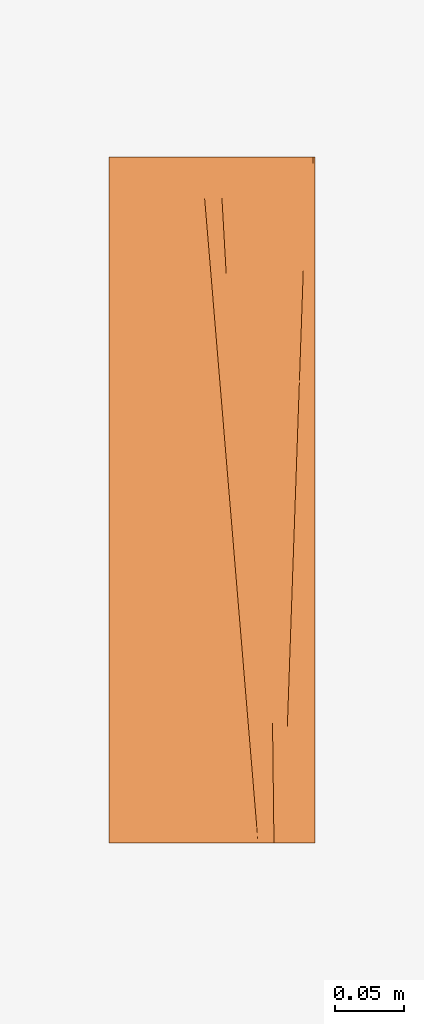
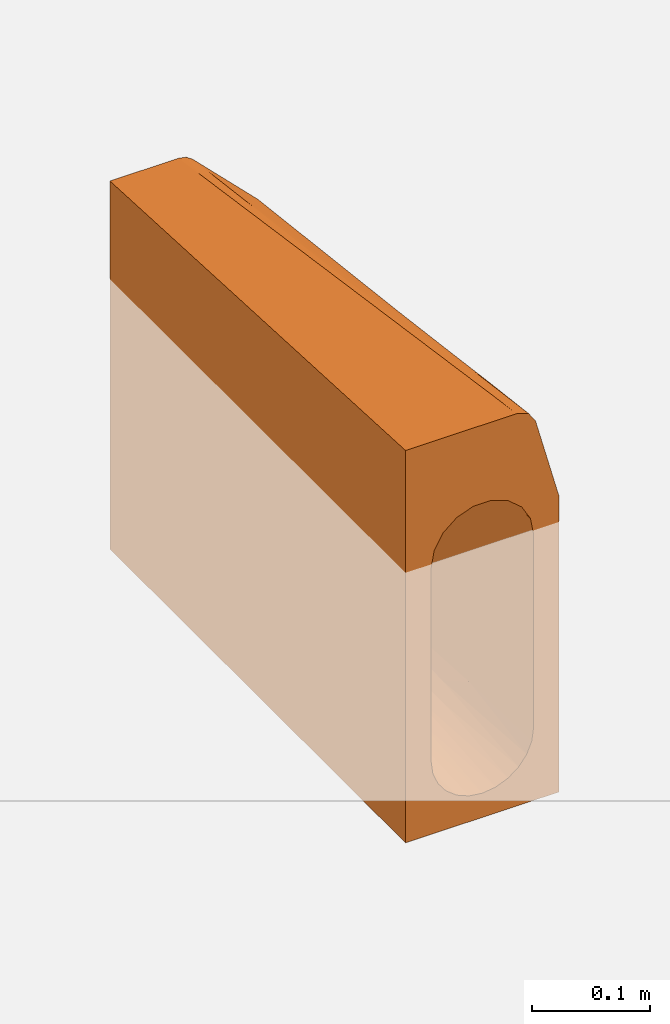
# One storey, part 2 of 2: 1 proxy.
"""IFC2X3 building model written with IfcOpenShell, lengths in millimetres."""

from ifc_helpers import new_model, entity, si_unit, converted_unit, direction, frame, origin, place, context, subcontext, project, spatial, face_set, surface_model, source, transform, mapped, material, element, save


model = new_model("IFC2X3")

# Units and contexts
model_context = context("Model", 3, precision=1e-06, world=origin(), true_north=direction((2.0, 6.12303176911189e-17, 1.0)))
context_of_model = context(None, 3, precision=1e-06, world=origin(), true_north=direction((2.0, 6.12303176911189e-17, 1.0)))
body_context = subcontext(model_context, "Body", "Model", "MODEL_VIEW")
ifc_project = project(units=[si_unit("LENGTHUNIT", "METRE", prefix="MILLI"), si_unit("AREAUNIT", "SQUARE_METRE", prefix="MILLI"), si_unit("VOLUMEUNIT", "CUBIC_METRE", prefix="MILLI"), converted_unit("PLANEANGLEUNIT", "DEGREE", entity("IfcRatioMeasure", 0.0174532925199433), si_unit("PLANEANGLEUNIT", "RADIAN"), dimensions=[0, 0, 0, 0, 0, 0, 0]), si_unit("TIMEUNIT", "SECOND")], contexts=[model_context, context_of_model])

# Site, building, storey
site_placement = place(None, origin())
site = spatial("IfcSite", under=ifc_project, at=site_placement, Name="Default", CompositionType="ELEMENT")
building_placement = place(site_placement, origin())
building = spatial("IfcBuilding", under=site, at=building_placement, CompositionType="ELEMENT")
storey_placement = place(building_placement, origin())
storey = spatial("IfcBuildingStorey", under=building, at=storey_placement, Name="Level 1", CompositionType="ELEMENT", Elevation=0.0)

# Proxy
ifc_material = material(Name="ACO Polymer Concrete.")
shared_shape = source(origin(), body_context, "Body", "SurfaceModel", [
    surface_model("IfcFaceBasedSurfaceModel", [(-75.0, 500.0, 100.0), (-7.87005768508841, 500.0, 100.0), (-0.599072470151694, 500.0, 98.5537111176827), (5.56497115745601, 500.0, 94.4350288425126), (69.4350288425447, 500.0, 30.5649711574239), (73.5537111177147, 500.0, 24.4009275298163), (75.0, 500.0, 17.1299423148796), (75.0, 500.0, -280.0), (-75.0, 500.0, -280.0), (-50.0, 500.0, -30.0), (-50.0, 500.0, -204.99343981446), (-48.2962913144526, 500.0, -217.934392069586), (-43.3012701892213, 500.0, -229.99343981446), (-35.3553390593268, 500.0, -240.348778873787), (-25.0, 500.0, -248.294710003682), (-12.9409522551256, 500.0, -253.289731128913), (0.0, 500.0, -254.99343981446), (12.9409522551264, 500.0, -253.289731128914), (25.0, 500.0, -248.294710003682), (35.3553390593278, 500.0, -240.348778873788), (43.3012701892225, 500.0, -229.993439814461), (48.2962913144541, 500.0, -217.934392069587), (50.0, 500.0, -204.993439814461), (50.0, 500.0, -30.0), (46.9862114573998, 500.0, -12.9033356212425), (38.3112551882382, 500.0, 2.12861226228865), (25.0056097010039, 500.0, 13.2980309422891), (8.68566893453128, 500.0, 19.2398127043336), (-8.67344575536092, 500.0, 19.2419672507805), (-25.0021080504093, 500.0, 13.3000530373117), (-38.29693516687, 500.0, 2.14568022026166), (-46.9851482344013, 500.0, -12.9004138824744), (-75.0, 0.0, 125.0), (-75.0, 0.0, -280.0), (75.0, 0.0, -280.0), (75.0, 0.0, 25.0), (51.9784586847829, 0.0, 110.917561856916), (45.1923351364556, 0.0, 121.073713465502), (33.6258679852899, 0.0, 125.0), (-50.0, 0.0, -205.0), (-50.0, 0.0, -5.0), (-46.9851482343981, 0.0, 12.0995861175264), (-38.2969351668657, 0.0, 27.1456802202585), (-25.0021080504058, 0.0, 38.3000530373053), (-8.67344575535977, 0.0, 44.2419672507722), (8.68566893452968, 0.0, 44.2398127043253), (25.005609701, 0.0, 38.2980309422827), (38.3112551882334, 0.0, 27.1286122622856), (46.9862114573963, 0.0, 12.0966643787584), (50.0, 0.0, -5.0), (50.0, 0.0, -205.0), (48.2962913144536, 0.0, -217.940952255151), (43.301270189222, 0.0, -230.0), (35.3553390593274, 0.0, -240.355339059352), (25.0, 0.0, -248.301270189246), (12.9409522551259, 0.0, -253.296291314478), (0.0, 0.0, -255.0), (-12.9409522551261, 0.0, -253.296291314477), (-25.0, 0.0, -248.301270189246), (-35.3553390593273, 0.0, -240.355339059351), (-43.3012701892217, 0.0, -230.0), (-48.2962913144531, 0.0, -217.94095225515), (72.1242358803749, 165.941052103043, 33.7805507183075), (71.6700348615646, 97.6032902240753, 36.2727995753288), (75.0000005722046, 178.520117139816, 22.1900722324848), (64.6683728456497, 246.533353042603, 58.9901220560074), (66.3287184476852, 187.299341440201, 54.9315080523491), (68.7004168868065, 258.890102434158, 45.4053862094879), (73.7525658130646, 399.537531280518, 25.1355796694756), (75.0000005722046, 419.630018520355, 18.3949754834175), (74.2768570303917, 500.000003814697, 20.7654339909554), (60.0771105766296, 63.8706926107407, 79.5689531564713), (60.9731587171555, 0.0, 77.3488942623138), (64.0238582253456, 69.4773543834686, 65.0810384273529), (69.8112411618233, 204.403856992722, 42.1639870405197), (72.468827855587, 299.075076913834, 31.1411860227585), (63.8230937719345, 339.260069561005, 56.3967120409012), (68.2996101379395, 379.44504404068, 42.8469985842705), (66.629058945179, 419.630018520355, 43.4808443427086), (62.6469936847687, 129.445060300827, 68.9980140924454), (57.0106053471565, 0.0, 92.1373357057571), (54.7844285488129, 80.3699762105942, 98.0016943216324), (71.1818197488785, 379.44504404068, 34.7299931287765), (67.9455392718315, 313.97389497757, 46.5610751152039), (75.0000005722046, 258.890084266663, 20.9250399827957), (75.0000005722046, 339.260069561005, 19.6600077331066), (68.2624712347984, 58.5613191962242, 49.5159229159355), (69.025374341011, 129.445051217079, 45.9074494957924), (58.2111543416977, 178.520117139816, 82.2284565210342), (69.9678540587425, 0.0, 43.7802219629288), (64.9357075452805, 0.0, 62.5604437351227), (75.0000005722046, 80.3699671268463, 23.7349679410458), (72.5563543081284, 234.208705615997, 31.3918247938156), (71.4943688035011, 500.000003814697, 27.4829495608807), (61.0171240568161, 258.890084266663, 69.3125842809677), (65.2108406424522, 307.994935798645, 54.7811175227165), (66.4849816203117, 415.503235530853, 44.1440396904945), (49.7160424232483, 376.74517250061, 66.6228229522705), (63.778651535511, 337.987109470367, 56.6012825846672), (41.2924695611, 253.490341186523, 91.3779707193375), (42.4751281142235, 173.548363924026, 100.786126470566), (48.4550365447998, 139.295703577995, 99.4188679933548), (52.7537430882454, 267.534396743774, 77.8214580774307), (33.1716761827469, 372.409463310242, 83.51711332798), (22.1698858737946, 376.74517250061, 93.2402026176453), (18.8441043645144, 500.000003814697, 81.1558929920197), (10.3070823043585, 415.503235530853, 99.6003158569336), (28.7838603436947, 278.568425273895, 99.3137054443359), (44.094401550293, 90.573913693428, 110.205754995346), (39.4090997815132, 0.0, 123.036857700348), (44.1395659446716, 500.000003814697, 55.8604348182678), (32.1232390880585, 500.000003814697, 67.876761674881), (56.1558973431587, 500.000003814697, 43.8441034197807), (57.8785529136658, 168.993554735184, 83.7594223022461), (48.5853974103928, 0.0, 115.995635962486), (54.9285058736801, 84.4967773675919, 97.3384898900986), (60.8285999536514, 253.490323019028, 70.1803547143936), (35.1780285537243, 209.753911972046, 102.434100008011), (37.7338409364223, 131.043918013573, 110.127171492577), (48.4593195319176, 66.6990083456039, 109.040491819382), (28.8837565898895, 84.4967773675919, 119.834718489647), (14.6574254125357, 337.987109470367, 104.338871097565), (19.399535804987, 253.490341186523, 109.504153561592), (24.1416473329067, 168.993554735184, 114.66943602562), (12.8779055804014, 250.000001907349, 112.500000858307), (19.9399529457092, 243.860987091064, 110.092789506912), (18.1430797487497, 275.878364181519, 108.135568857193), (-0.280629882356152, 408.552133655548, 104.572396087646), (10.869455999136, 405.482626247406, 100.212869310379), (8.98645013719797, 439.034757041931, 98.1618317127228), (23.3614306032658, 182.895740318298, 113.819596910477), (21.650692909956, 213.378363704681, 111.956193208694), (18.192268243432, 185.96524772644, 115.701740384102), (-5.34024850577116, 469.517380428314, 101.524135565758), (7.27571074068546, 469.517380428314, 96.2984280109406), (28.493650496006, 91.4478701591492, 119.409798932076), (23.5066320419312, 121.930493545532, 118.903479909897), (26.0364399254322, 91.4478701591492, 120.427605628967), (30.2043881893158, 60.9652467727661, 121.27319355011), (2.24917940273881, 378.069510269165, 106.096521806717), (12.7524612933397, 371.930495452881, 102.263906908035), (28.5662500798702, 60.9652467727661, 121.951740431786), (31.9151281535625, 30.4826233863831, 123.136597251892), (31.0960579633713, 30.4826233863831, 123.475866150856), (20.8494495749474, 153.947870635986, 117.302605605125), (7.56354234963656, 314.034756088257, 109.298261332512), (10.2207242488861, 282.017378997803, 110.899135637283), (16.3462076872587, 307.895741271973, 106.178348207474), (25.0721705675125, 152.413116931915, 115.682991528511), (15.5350869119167, 217.982624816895, 114.10086607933), (14.5493344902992, 339.913118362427, 104.221127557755), (4.90636101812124, 346.052133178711, 107.697396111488), (-2.8104392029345, 439.034757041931, 103.048261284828), (26.7829105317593, 121.930493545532, 117.546395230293), (50.0000003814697, 375.000002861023, -204.995081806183), (50.0000003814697, 249.999983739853, -204.996716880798), (48.6556147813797, 312.500002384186, -216.512474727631), (-39.6676686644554, 384.759436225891, -235.433013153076), (-30.4380744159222, 345.721702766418, -244.663136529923), (-39.6676686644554, 250.000001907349, -235.434793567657), (-27.6119024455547, 250.000001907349, -246.681036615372), (49.2088195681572, 409.328140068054, -213.854206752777), (6.52631119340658, 115.240558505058, -254.570725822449), (19.1341722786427, 154.278301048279, -251.191953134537), (15.8823517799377, 250.000001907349, -252.407176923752), (30.4380721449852, 250.000001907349, -244.664390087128), (30.4380721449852, 384.759436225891, -244.662609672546), (39.6676686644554, 345.721702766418, -235.433540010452), (47.6227063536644, 104.776762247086, -220.232723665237), (39.6676686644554, 137.581373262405, -235.436265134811), (46.1939781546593, 203.075486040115, -224.131504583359), (30.4380721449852, 115.240558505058, -244.666152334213), (49.1924551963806, 187.500001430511, -213.947533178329), (-39.6676686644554, 115.240558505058, -235.436555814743), (-30.4380744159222, 154.278301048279, -244.665643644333), (-19.1341700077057, 384.759472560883, -251.188937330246), (-48.6260199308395, 400.564358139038, -216.635632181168), (-46.1939781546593, 345.721702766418, -224.129633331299), (19.1341722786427, 345.721702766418, -251.189446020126), (6.52631119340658, 384.759436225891, -254.567201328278), (45.7125168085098, 301.414214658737, -225.253529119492), (46.1939781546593, 399.752925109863, -224.128924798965), (-19.1341700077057, 115.240540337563, -251.192461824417), (-6.52630721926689, 154.278301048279, -254.570217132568), (6.52631232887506, 250.000001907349, -254.568963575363), (-50.0000003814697, 124.999991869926, -204.998351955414), (-49.2493149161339, 87.9099502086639, -213.630455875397), (-6.52630721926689, 345.721702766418, -254.567710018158), (-9.95070416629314, 250.000001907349, -253.996560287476), (-46.1939781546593, 154.278301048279, -224.132140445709), (41.560517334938, 241.651528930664, -232.794729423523), (-49.0795215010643, 302.733792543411, -214.545915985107), (-46.9974356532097, 250.000001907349, -222.062499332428), (-19.1341677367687, 250.000001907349, -251.190699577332), (-49.1576371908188, 187.499983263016, -214.13683848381), (50.0000003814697, 125.000010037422, -204.998351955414), (-50.0000003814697, 249.999983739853, -204.996716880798), (-50.0000003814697, 375.000002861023, -204.995081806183), (-32.1371644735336, 250.000001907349, 20.8040830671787), (-43.2995917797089, 323.102443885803, 3.84778362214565), (-43.2995917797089, 148.145136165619, 12.595649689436), (50.0000003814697, 250.000001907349, -17.5000003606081), (48.2975016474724, 312.500002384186, -7.68855913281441), (48.5635964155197, 151.088651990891, -0.655817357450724), (-7.85991495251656, 166.072984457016, 36.0747034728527), (-16.8377769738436, 0.0, 41.2710092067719), (32.1472474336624, 148.148115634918, 25.8882135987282), (31.6584327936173, 0.0, 32.7133216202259), (-25.7122455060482, 166.086355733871, 29.5778503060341), (-17.0978753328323, 176.901120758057, 33.1407142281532), (-32.1371622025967, 392.28572101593, 13.6897973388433), (32.1472474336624, 323.10186252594, 17.1405269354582), (31.6584327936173, 500.000003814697, 7.71332142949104), (-23.354345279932, 264.380337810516, 25.9915525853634), (17.1056033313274, 176.90382771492, 33.1377665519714), (16.8456389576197, 0.0, 41.2689199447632), (-47.886648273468, 92.3533018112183, 4.76527735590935), (-42.6410427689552, 0.0, 19.6226326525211), (-32.1371622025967, 107.714291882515, 27.9183676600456), (-48.634054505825, 342.614261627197, -10.5234333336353), (-50.0000003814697, 375.000002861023, -23.7499992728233), (44.386453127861, 383.367624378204, -1.15007003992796), (43.3059413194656, 250.000001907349, 7.49191018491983), (-50.0000003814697, 125.000010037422, -11.2500003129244), (-48.3968914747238, 187.500001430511, -1.81550765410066), (-50.0000003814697, 249.999983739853, -17.4999992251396), (-10.5195806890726, 264.380337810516, 30.6618411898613), (25.2905688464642, 360.151744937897, 20.1246187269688), (16.8456389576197, 500.000003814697, 16.2689220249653), (17.1056044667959, 351.848218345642, 24.3905465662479), (0.00620417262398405, 392.295349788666, 25.3852305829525), (0.00620417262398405, 107.704635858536, 39.6147694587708), (0.0062026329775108, 250.000001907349, 32.4999988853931), (-47.9742337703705, 0.0, 6.48971731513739), (44.1829908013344, 114.894958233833, 12.6617339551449), (-8.39260295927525, 357.883278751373, 26.3964470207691), (-16.8377769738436, 500.000003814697, 16.2710101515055), (-17.0978753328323, 351.859554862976, 24.3927925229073), (39.2495982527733, 170.041038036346, 17.4732430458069), (39.3710752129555, 332.335019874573, 9.20399397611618), (50.0000003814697, 125.000000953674, -11.2500003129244), (50.0000003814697, 375.000002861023, -23.7499992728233), (47.9745834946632, 500.000003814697, -18.510199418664), (47.8870933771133, 408.046713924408, -11.0208832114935), (-42.6410427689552, 500.000003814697, -5.37736697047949), (24.3258680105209, 108.537597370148, 33.2566659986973), (-25.2476140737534, 357.869616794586, 20.2638816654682), (24.0837861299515, 264.376050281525, 25.5986736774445)], [face_set([[[0, 1, 2, 3, 4, 5, 6, 7, 8], [9, 10, 11, 12, 13, 14, 15, 16, 17, 18, 19, 20, 21, 22, 23, 24, 25, 26, 27, 28, 29, 30, 31]], [[32, 33, 34, 35, 36, 37, 38], [39, 40, 41, 42, 43, 44, 45, 46, 47, 48, 49, 50, 51, 52, 53, 54, 55, 56, 57, 58, 59, 60, 61]], [[0, 8, 33, 32]], [[8, 7, 34, 33]], [[7, 6, 35, 34]], [[62, 63, 64]], [[65, 66, 67]], [[68, 69, 70]], [[71, 72, 73]], [[74, 75, 67]], [[76, 77, 78]], [[65, 79, 66]], [[36, 80, 81]], [[82, 77, 83]], [[84, 85, 75]], [[86, 63, 87]], [[62, 87, 63]], [[88, 81, 79]], [[89, 86, 90]], [[89, 35, 91]], [[90, 86, 73]], [[71, 81, 80]], [[87, 74, 66]], [[63, 89, 91]], [[87, 66, 73]], [[87, 73, 86]], [[71, 73, 79]], [[89, 63, 86]], [[64, 63, 91]], [[64, 84, 92]], [[74, 87, 62]], [[82, 68, 5]], [[75, 74, 92]], [[67, 75, 82]], [[85, 68, 75]], [[82, 75, 68]], [[77, 93, 78]], [[74, 62, 92]], [[66, 74, 67]], [[69, 6, 70]], [[68, 70, 5]], [[94, 65, 95]], [[66, 79, 73]], [[83, 95, 65]], [[65, 88, 79]], [[88, 65, 94]], [[82, 5, 93]], [[93, 4, 78]], [[67, 83, 65]], [[93, 77, 82]], [[64, 92, 62]], [[84, 75, 92]], [[81, 71, 79]], [[68, 85, 69]], [[82, 83, 67]], [[95, 77, 76]], [[77, 95, 83]], [[94, 95, 76]], [[72, 71, 80]], [[72, 90, 73]], [[96, 97, 98]], [[99, 100, 101]], [[101, 102, 99]], [[99, 97, 103]], [[104, 105, 106]], [[107, 99, 103]], [[99, 102, 97]], [[37, 108, 109]], [[110, 111, 103]], [[97, 96, 112]], [[110, 103, 97]], [[96, 4, 112]], [[113, 102, 101]], [[114, 36, 115]], [[98, 97, 102]], [[102, 113, 116]], [[117, 118, 100]], [[115, 101, 119]], [[120, 38, 109]], [[101, 100, 108]], [[121, 104, 106]], [[107, 104, 121]], [[117, 122, 123]], [[117, 123, 118]], [[97, 112, 110]], [[108, 119, 101]], [[116, 98, 102]], [[117, 99, 107]], [[113, 101, 115]], [[108, 100, 118]], [[109, 108, 118]], [[119, 37, 114]], [[99, 117, 100]], [[107, 122, 117]], [[37, 119, 108]], [[115, 119, 114]], [[118, 123, 120]], [[120, 109, 118]], [[103, 111, 105]], [[105, 3, 106]], [[107, 103, 104]], [[105, 104, 103]], [[107, 121, 122]], [[124, 125, 126]], [[127, 128, 129]], [[130, 131, 132]], [[2, 133, 134]], [[135, 136, 137, 138]], [[128, 139, 140]], [[138, 137, 141]], [[141, 142, 138]], [[38, 142, 143]], [[144, 130, 132]], [[145, 146, 147]], [[2, 1, 133]], [[142, 141, 143]], [[144, 136, 148]], [[125, 149, 131]], [[147, 150, 145]], [[146, 124, 126]], [[140, 151, 150]], [[152, 134, 133]], [[134, 3, 2]], [[152, 129, 134]], [[136, 135, 153, 148]], [[129, 152, 127]], [[139, 128, 127]], [[130, 144, 148]], [[149, 125, 124]], [[149, 132, 131]], [[147, 146, 126]], [[151, 140, 139]], [[151, 145, 150]], [[1, 0, 32, 38]], [[39, 40, 9, 10]], [[22, 23, 49, 50]], [[154, 155, 156]], [[157, 158, 159]], [[160, 159, 158]], [[22, 154, 161]], [[55, 162, 163]], [[164, 165, 163]], [[165, 166, 167]], [[168, 169, 170]], [[171, 163, 165]], [[163, 54, 55]], [[156, 155, 172]], [[169, 168, 52]], [[173, 174, 59]], [[158, 175, 160]], [[176, 12, 177]], [[178, 164, 179]], [[166, 178, 18]], [[53, 54, 171]], [[169, 52, 53]], [[156, 180, 181]], [[16, 17, 179]], [[163, 162, 164]], [[57, 182, 183]], [[162, 183, 184]], [[17, 18, 178]], [[39, 185, 186]], [[172, 168, 170]], [[175, 187, 188]], [[157, 177, 12]], [[57, 58, 182]], [[12, 13, 157]], [[189, 159, 173]], [[167, 180, 190]], [[191, 177, 192]], [[175, 14, 15]], [[59, 174, 58]], [[14, 175, 158]], [[18, 19, 166]], [[56, 162, 55]], [[174, 160, 182]], [[161, 181, 21]], [[60, 173, 59]], [[14, 158, 13]], [[60, 61, 189]], [[15, 16, 187]], [[19, 20, 167]], [[188, 184, 183]], [[183, 56, 57]], [[188, 193, 175]], [[179, 187, 16]], [[185, 194, 186]], [[191, 176, 177]], [[189, 192, 159]], [[194, 191, 192]], [[171, 169, 53]], [[190, 165, 167]], [[195, 172, 155]], [[195, 50, 51]], [[20, 21, 181]], [[161, 154, 156]], [[163, 171, 54]], [[196, 194, 185]], [[11, 176, 10]], [[169, 171, 165]], [[167, 166, 19]], [[178, 166, 165]], [[178, 179, 17]], [[187, 179, 184]], [[183, 162, 56]], [[162, 184, 164]], [[187, 175, 15]], [[175, 193, 160]], [[174, 182, 58]], [[182, 193, 188]], [[189, 173, 60]], [[174, 173, 159]], [[158, 157, 13]], [[177, 157, 159]], [[194, 196, 191]], [[186, 189, 61]], [[196, 197, 191]], [[197, 10, 176]], [[168, 195, 51]], [[156, 172, 170]], [[195, 168, 172]], [[52, 168, 51]], [[180, 156, 170]], [[167, 20, 181]], [[197, 176, 191]], [[12, 176, 11]], [[189, 186, 194]], [[39, 186, 61]], [[159, 192, 177]], [[194, 192, 189]], [[190, 170, 169]], [[167, 181, 180]], [[170, 190, 180]], [[165, 190, 169]], [[179, 164, 184]], [[165, 164, 178]], [[182, 160, 193]], [[159, 160, 174]], [[184, 188, 187]], [[182, 188, 183]], [[181, 161, 156]], [[22, 161, 21]], [[198, 199, 200]], [[201, 202, 203]], [[44, 204, 205]], [[47, 206, 207]], [[208, 205, 209]], [[199, 198, 210]], [[211, 25, 212]], [[209, 213, 208]], [[214, 45, 215]], [[216, 217, 200]], [[43, 218, 42]], [[219, 9, 220]], [[221, 222, 202]], [[223, 224, 225]], [[213, 209, 226]], [[227, 228, 229]], [[230, 27, 28]], [[200, 224, 216]], [[231, 214, 232]], [[223, 40, 233]], [[48, 203, 234]], [[235, 236, 237]], [[234, 203, 222]], [[211, 238, 239]], [[225, 224, 219]], [[201, 203, 49, 240]], [[29, 30, 210]], [[214, 229, 232]], [[26, 227, 212]], [[221, 239, 222]], [[235, 237, 226]], [[45, 231, 44]], [[241, 242, 243]], [[31, 199, 244]], [[237, 213, 226]], [[245, 215, 46]], [[200, 42, 218]], [[29, 210, 246]], [[229, 27, 230]], [[247, 229, 214]], [[47, 234, 238]], [[206, 211, 247]], [[199, 219, 224]], [[233, 216, 223]], [[199, 224, 200]], [[199, 30, 244]], [[9, 219, 31]], [[202, 201, 241]], [[241, 23, 242]], [[243, 221, 202]], [[222, 203, 202]], [[49, 203, 48]], [[24, 25, 221]], [[25, 211, 239]], [[238, 234, 222]], [[47, 48, 234]], [[25, 239, 221]], [[238, 211, 206]], [[239, 238, 222]], [[238, 206, 47]], [[205, 208, 43]], [[220, 225, 219]], [[200, 218, 198]], [[210, 30, 199]], [[198, 213, 246]], [[28, 236, 235]], [[229, 230, 232]], [[231, 45, 214]], [[232, 226, 204]], [[44, 231, 204]], [[199, 31, 219]], [[46, 207, 245]], [[227, 229, 247]], [[246, 213, 237]], [[246, 236, 29]], [[208, 198, 218]], [[198, 208, 213]], [[43, 208, 218]], [[246, 237, 236]], [[198, 246, 210]], [[204, 226, 209]], [[235, 232, 230]], [[204, 209, 205]], [[232, 204, 231]], [[232, 235, 226]], [[28, 235, 230]], [[247, 214, 245]], [[217, 42, 200]], [[27, 229, 228]], [[227, 247, 211]], [[212, 227, 211]], [[228, 227, 26]], [[245, 207, 206]], [[216, 233, 41]], [[216, 41, 217]], [[223, 216, 224]], [[243, 242, 24]], [[221, 243, 24]], [[241, 243, 202]], [[247, 245, 206]], [[215, 245, 214]]])]),
])
proxy_placement = place(storey_placement, frame((-13330.2750822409, -1412.72179195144, 0.0)))
element("IfcBuildingElementProxy", 1, at=proxy_placement, inside=storey, material=ifc_material, Name="Civil-Drainage-Channel-ACO-KerbDrain-SP380:4245 - LH  transition kerb - 500mm LG:4245 - LH  transition kerb - 500mm LG", ObjectType="4245 - LH  transition kerb - 500mm LG", CompositionType="ELEMENT", context=body_context, shape_type="MappedRepresentation", body=[
    mapped(shared_shape, transform((0.0, 0.0, 0.0), scale=1.0)),
])

save(model, "model.ifc")
